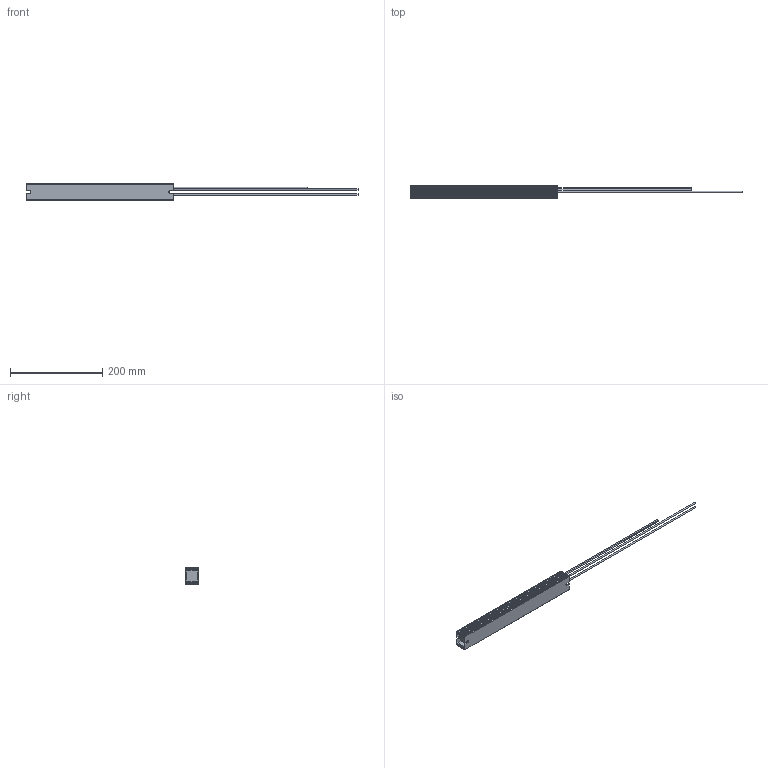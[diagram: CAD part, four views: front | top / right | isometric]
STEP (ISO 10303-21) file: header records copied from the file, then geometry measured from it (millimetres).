
FILE_DESCRIPTION(/* description */ (''),/* implementation_level */ '2;1');
FILE_NAME(/* name */ 'C:\_Vault\Dati\CATALOGO\RFZC\3D\RFZTC320.stp',/* time_stamp */ '2014-03-27T17:49:10+01:00',/* author */ ('stefano'),/* organization */ (''),/* preprocessor_version */ 'ST-DEVELOPER v15.2',/* originating_system */ 'Autodesk Inventor 2014',/* authorisation */ '');
FILE_SCHEMA (('AUTOMOTIVE_DESIGN { 1 0 10303 214 3 1 1 }'));
Length unit declared in the file: millimetre
Products named in the file (1): RFZTC320
Bounding box: 720 x 27 x 36 mm (x, y, z)
Volume: 270260.4 mm3; surface area: 80904.6 mm2
Topology: 1 solids, 1 shells, 98 faces, 268 edges, 176 vertices
Faces by surface type: plane 72, cylinder 26
Full cylindrical faces by diameter (mm): 2 x2, 3 x2
Entity records: 3215 total; most frequent: CARTESIAN_POINT 539, ORIENTED_EDGE 528, DIRECTION 522, EDGE_CURVE 264, LINE 204, VECTOR 204, VERTEX_POINT 176, AXIS2_PLACEMENT_3D 159
